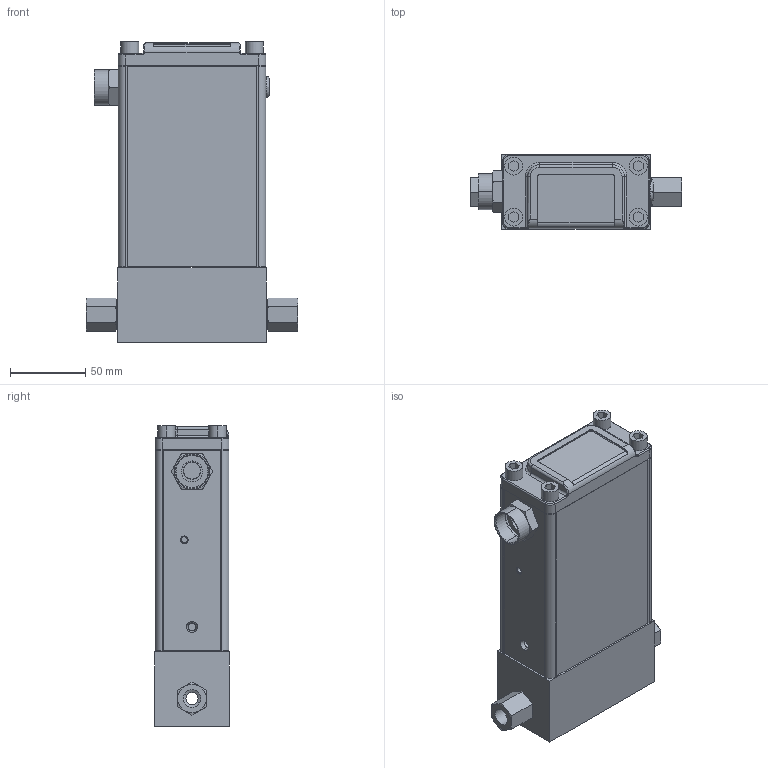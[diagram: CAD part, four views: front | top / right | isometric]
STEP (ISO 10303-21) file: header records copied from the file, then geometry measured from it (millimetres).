
FILE_DESCRIPTION (( 'STEP AP203' ), '1' );
FILE_NAME ('SLAMF60-S-G1-0-K-REVB.STEP', '2022-07-13T14:07:05', ( '' ), ( '' ), 'SwSTEP 2.0', 'SolidWorks 2020', '' );
FILE_SCHEMA (( 'CONFIG_CONTROL_DESIGN' ));
Length unit declared in the file: inch
Products named in the file (1): SLAMF60-S-G1-0-K-REVB
Bounding box: 140.76 x 49.5 x 199.98 mm (x, y, z)
Volume: 403542 mm3; surface area: 161391.9 mm2
Topology: 12 solids, 12 shells, 493 faces, 1180 edges, 748 vertices
Faces by surface type: cylinder 202, plane 185, cone 82, bspline 24
Entity records: 15364 total; most frequent: CARTESIAN_POINT 3540, DIRECTION 2540, ORIENTED_EDGE 2356, EDGE_CURVE 1178, AXIS2_PLACEMENT_3D 972, VERTEX_POINT 748, EDGE_LOOP 600, LINE 596
